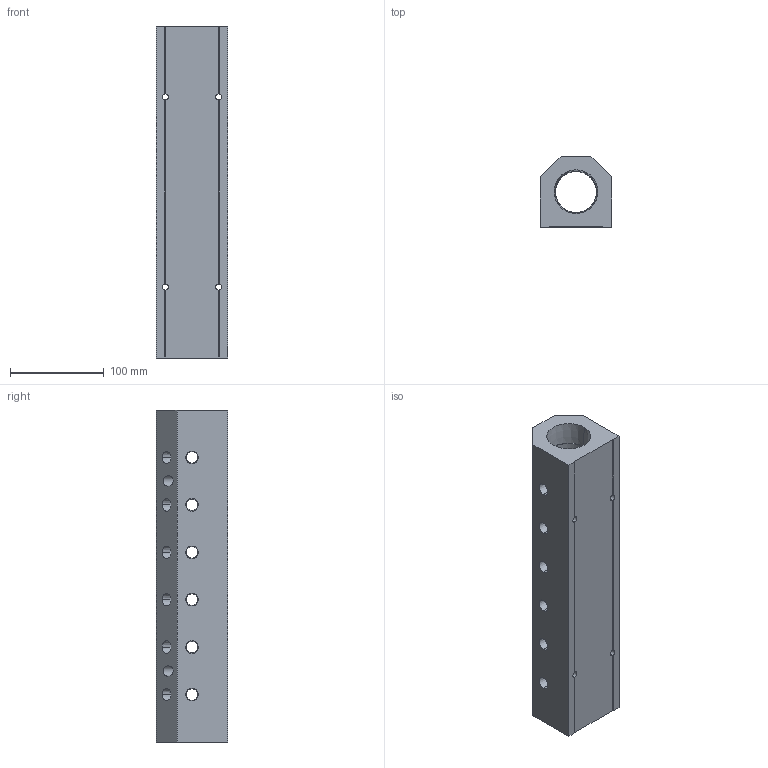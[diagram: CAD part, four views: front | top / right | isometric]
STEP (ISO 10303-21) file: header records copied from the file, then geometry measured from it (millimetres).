
FILE_DESCRIPTION (( 'STEP AP214' ), '1' );
FILE_NAME ('ALM6ABCDE-N4N24-355B.step', '2022-02-07T07:46:20', ( '' ), ( '' ), 'SwSTEP 2.0', 'SolidWorks 2020', '' );
FILE_SCHEMA (( 'AUTOMOTIVE_DESIGN' ));
Length unit declared in the file: millimetre
Products named in the file (1): ALM6ABCDE-N4N24-355B
Bounding box: 76.2 x 76.2 x 355 mm (x, y, z)
Volume: 1255810.3 mm3; surface area: 173508.3 mm2
Topology: 1 solids, 1 shells, 409 faces, 1111 edges, 730 vertices
Faces by surface type: plane 246, bspline 81, cone 64, cylinder 18
Entity records: 24297 total; most frequent: CARTESIAN_POINT 10506, ORIENTED_EDGE 2222, DIRECTION 1627, EDGE_CURVE 1111, LINE 777, VECTOR 777, VERTEX_POINT 730, EDGE_LOOP 505
